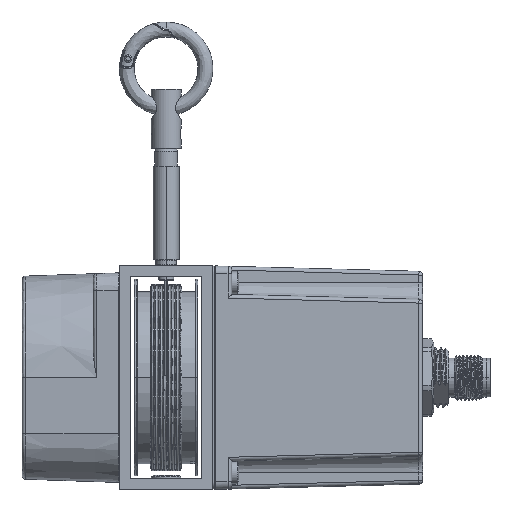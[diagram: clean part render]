
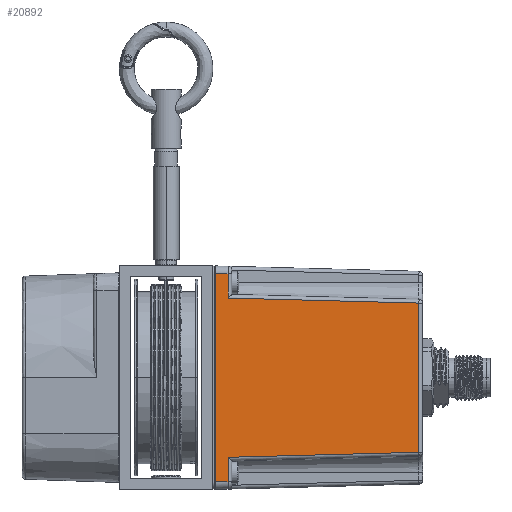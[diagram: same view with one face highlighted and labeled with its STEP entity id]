
A CAD part, left-side view. The second image highlights one B-rep face of the part: STEP entity #20892.
In plain terms, the highlighted planar face has unit normal (-1, -0.026, 0).
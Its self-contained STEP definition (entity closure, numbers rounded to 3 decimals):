
#998 = VERTEX_POINT ( 'NONE', #29476 ) ;
#1166 = VECTOR ( 'NONE', #32807, 1000. ) ;
#3238 = EDGE_CURVE ( 'NONE', #43175, #45616, #34507, .T. ) ;
#4126 = VECTOR ( 'NONE', #27040, 1000. ) ;
#4381 = ORIENTED_EDGE ( 'NONE', *, *, #37290, .T. ) ;
#4404 = AXIS2_PLACEMENT_3D ( 'NONE', #45608, #31250, #31080 ) ;
#4433 = CARTESIAN_POINT ( 'NONE',  ( -29.758, -16.526, 27.758 ) ) ;
#4449 = CARTESIAN_POINT ( 'NONE',  ( -29.758, -16.526, -21.261 ) ) ;
#4692 = VERTEX_POINT ( 'NONE', #35460 ) ;
#8105 = FACE_OUTER_BOUND ( 'NONE', #25361, .T. ) ;
#9587 = ORIENTED_EDGE ( 'NONE', *, *, #12257, .T. ) ;
#10691 = LINE ( 'NONE', #4449, #1166 ) ;
#12257 = EDGE_CURVE ( 'NONE', #44686, #998, #15197, .T. ) ;
#12645 = VECTOR ( 'NONE', #16104, 1000. ) ;
#13945 = LINE ( 'NONE', #38545, #30092 ) ;
#15197 = LINE ( 'NONE', #20343, #22433 ) ;
#15211 = VERTEX_POINT ( 'NONE', #34708 ) ;
#15610 = VECTOR ( 'NONE', #34464, 1000. ) ;
#16104 = DIRECTION ( 'NONE',  ( -0.026, 0.999, 0.026 ) ) ;
#16189 = EDGE_CURVE ( 'NONE', #45616, #4692, #23146, .T. ) ;
#17547 = DIRECTION ( 'NONE',  ( 0., 0., 1. ) ) ;
#17570 = ORIENTED_EDGE ( 'NONE', *, *, #43739, .T. ) ;
#19892 = ORIENTED_EDGE ( 'NONE', *, *, #40105, .T. ) ;
#19912 = LINE ( 'NONE', #26824, #12645 ) ;
#20343 = CARTESIAN_POINT ( 'NONE',  ( -28.422, -67.526, 19.926 ) ) ;
#20416 = PLANE ( 'NONE',  #4404 ) ;
#20892 = ADVANCED_FACE ( 'NONE', ( #8105 ), #20416, .T. ) ;
#21570 = DIRECTION ( 'NONE',  ( 0., 0., 1. ) ) ;
#21592 = VERTEX_POINT ( 'NONE', #4433 ) ;
#22129 = ORIENTED_EDGE ( 'NONE', *, *, #3238, .T. ) ;
#22433 = VECTOR ( 'NONE', #38229, 1000. ) ;
#22962 = EDGE_CURVE ( 'NONE', #44686, #15211, #13945, .T. ) ;
#23003 = VECTOR ( 'NONE', #21570, 1000. ) ;
#23146 = LINE ( 'NONE', #26903, #4126 ) ;
#25361 = EDGE_LOOP ( 'NONE', ( #22129, #42600, #19892, #17570, #35664, #9587, #4381, #29438 ) ) ;
#26824 = CARTESIAN_POINT ( 'NONE',  ( -29.758, -16.526, 27.758 ) ) ;
#26903 = CARTESIAN_POINT ( 'NONE',  ( -29.845, -13.205, -27.845 ) ) ;
#27040 = DIRECTION ( 'NONE',  ( 0.026, -0.999, 0.026 ) ) ;
#28576 = CARTESIAN_POINT ( 'NONE',  ( -29.758, -16.526, -21.261 ) ) ;
#29438 = ORIENTED_EDGE ( 'NONE', *, *, #41148, .T. ) ;
#29476 = CARTESIAN_POINT ( 'NONE',  ( -29.758, -16.526, 21.261 ) ) ;
#29832 = LINE ( 'NONE', #42724, #35966 ) ;
#30092 = VECTOR ( 'NONE', #35097, 1000. ) ;
#30388 = CARTESIAN_POINT ( 'NONE',  ( -28.422, -67.526, 19.926 ) ) ;
#31080 = DIRECTION ( 'NONE',  ( 0.026, -1., 0. ) ) ;
#31250 = DIRECTION ( 'NONE',  ( -1., -0.026, 0. ) ) ;
#31251 = CARTESIAN_POINT ( 'NONE',  ( -29.845, -13.205, 27.845 ) ) ;
#32446 = LINE ( 'NONE', #36178, #23003 ) ;
#32807 = DIRECTION ( 'NONE',  ( 0.026, -0.999, 0.026 ) ) ;
#33861 = VERTEX_POINT ( 'NONE', #28576 ) ;
#34026 = CARTESIAN_POINT ( 'NONE',  ( -29.845, -13.205, -0.05 ) ) ;
#34464 = DIRECTION ( 'NONE',  ( 0., 0., -1. ) ) ;
#34507 = LINE ( 'NONE', #34026, #15610 ) ;
#34708 = CARTESIAN_POINT ( 'NONE',  ( -28.422, -67.526, -19.926 ) ) ;
#35097 = DIRECTION ( 'NONE',  ( 0., 0., -1. ) ) ;
#35460 = CARTESIAN_POINT ( 'NONE',  ( -29.758, -16.526, -27.758 ) ) ;
#35664 = ORIENTED_EDGE ( 'NONE', *, *, #22962, .F. ) ;
#35966 = VECTOR ( 'NONE', #17547, 1000. ) ;
#36178 = CARTESIAN_POINT ( 'NONE',  ( -29.758, -16.526, -0.05 ) ) ;
#37290 = EDGE_CURVE ( 'NONE', #998, #21592, #32446, .T. ) ;
#38229 = DIRECTION ( 'NONE',  ( -0.026, 0.999, 0.026 ) ) ;
#38545 = CARTESIAN_POINT ( 'NONE',  ( -28.422, -67.526, 29.85 ) ) ;
#39027 = CARTESIAN_POINT ( 'NONE',  ( -29.845, -13.205, -27.845 ) ) ;
#40105 = EDGE_CURVE ( 'NONE', #4692, #33861, #29832, .T. ) ;
#41148 = EDGE_CURVE ( 'NONE', #21592, #43175, #19912, .T. ) ;
#42600 = ORIENTED_EDGE ( 'NONE', *, *, #16189, .T. ) ;
#42724 = CARTESIAN_POINT ( 'NONE',  ( -29.758, -16.526, -0.05 ) ) ;
#43175 = VERTEX_POINT ( 'NONE', #31251 ) ;
#43739 = EDGE_CURVE ( 'NONE', #33861, #15211, #10691, .T. ) ;
#44686 = VERTEX_POINT ( 'NONE', #30388 ) ;
#45608 = CARTESIAN_POINT ( 'NONE',  ( -29.85, -13., -0.05 ) ) ;
#45616 = VERTEX_POINT ( 'NONE', #39027 ) ;
